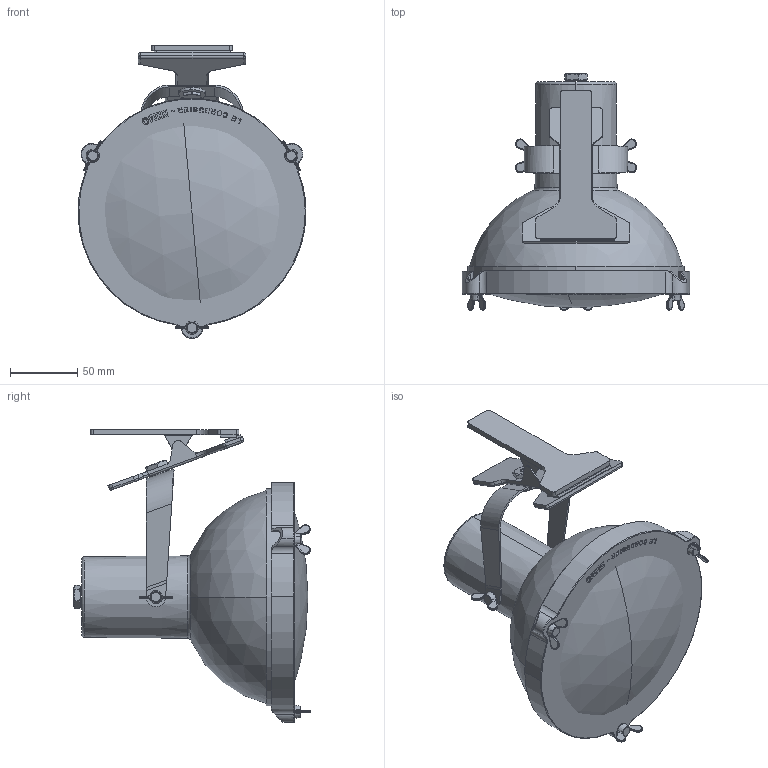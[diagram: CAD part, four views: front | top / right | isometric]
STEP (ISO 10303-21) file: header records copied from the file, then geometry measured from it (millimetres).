
FILE_DESCRIPTION (( 'STEP AP214' ), '1' );
FILE_NAME ('3D_PROJECTEUR_165_CLIP.STEP', '2018-03-01T14:38:40', ( 'Utente' ), ( '' ), 'SwSTEP 2.0', 'SolidWorks 2016', '' );
FILE_SCHEMA (( 'AUTOMOTIVE_DESIGN' ));
Length unit declared in the file: millimetre
Products named in the file (4): Group3^3D_PROJECTEUR_165_CLIP; Group2^3D_PROJECTEUR_165_CLIP; Group1^3D_PROJECTEUR_165_CLIP; 3D_PROJECTEUR_165_CLIP
Assembly tree (3 placements, depth 2):
  3D_PROJECTEUR_165_CLIP
    Group1^3D_PROJECTEUR_165_CLIP
    Group2^3D_PROJECTEUR_165_CLIP
    Group3^3D_PROJECTEUR_165_CLIP
Bounding box: 169 x 175.49 x 217.27 mm (x, y, z)
Volume: 1500766.5 mm3; surface area: 165996.2 mm2
Topology: 10 solids, 10 shells, 993 faces, 2527 edges, 1560 vertices
Faces by surface type: plane 422, cylinder 209, bspline 152, torus 126, cone 46, sphere 38
Entity records: 33625 total; most frequent: CARTESIAN_POINT 9536, ORIENTED_EDGE 5010, DIRECTION 4680, EDGE_CURVE 2505, AXIS2_PLACEMENT_3D 1668, VERTEX_POINT 1560, VECTOR 1344, LINE 1344
